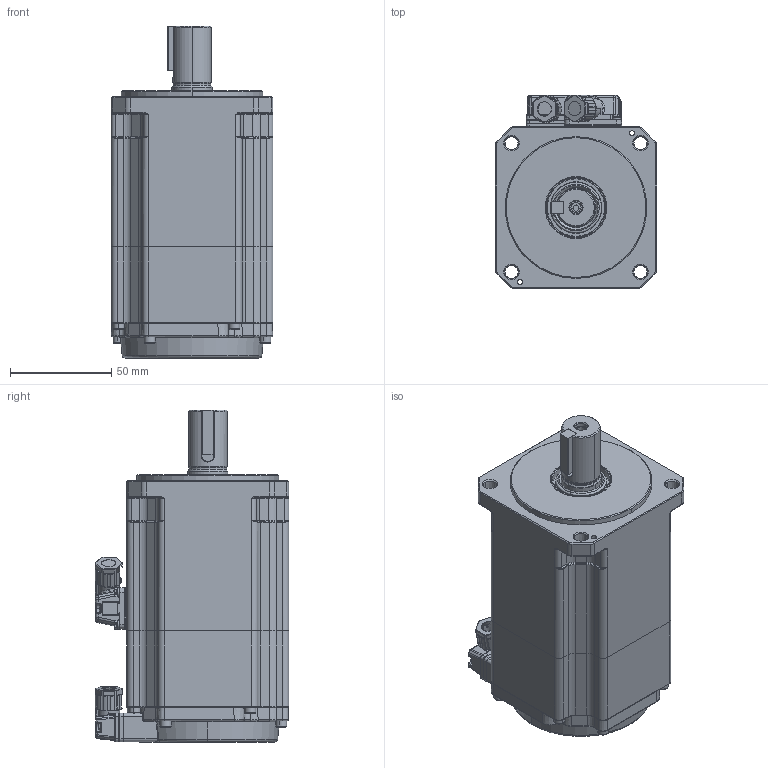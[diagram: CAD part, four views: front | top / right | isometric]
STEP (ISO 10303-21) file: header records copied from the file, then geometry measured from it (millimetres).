
FILE_DESCRIPTION (( 'STEP AP214' ), '1' );
FILE_NAME ('80x80-750W伺服电机带制动器_通用外形图_A0.STEP', '2023-09-15T02:00:02', ( '' ), ( '' ), 'SwSTEP 2.0', 'SolidWorks 2020', '' );
FILE_SCHEMA (( 'AUTOMOTIVE_DESIGN' ));
Length unit declared in the file: millimetre
Products named in the file (1): 80x80-750W伺服电机带制动器_通用外形图_A0
Bounding box: 80 x 95.65 x 164 mm (x, y, z)
Surface area: 61159.5 mm2 (no closed solid volume)
Topology: 0 solids, 28 shells, 1294 faces, 4721 edges, 3263 vertices
Faces by surface type: cylinder 434, plane 416, torus 215, bspline 111, cone 91, sphere 27
Entity records: 70936 total; most frequent: CARTESIAN_POINT 18872, DIRECTION 7611, ORIENTED_EDGE 7364, EDGE_CURVE 4689, VERTEX_POINT 3263, AXIS2_PLACEMENT_3D 2764, VECTOR 2083, LINE 2083
